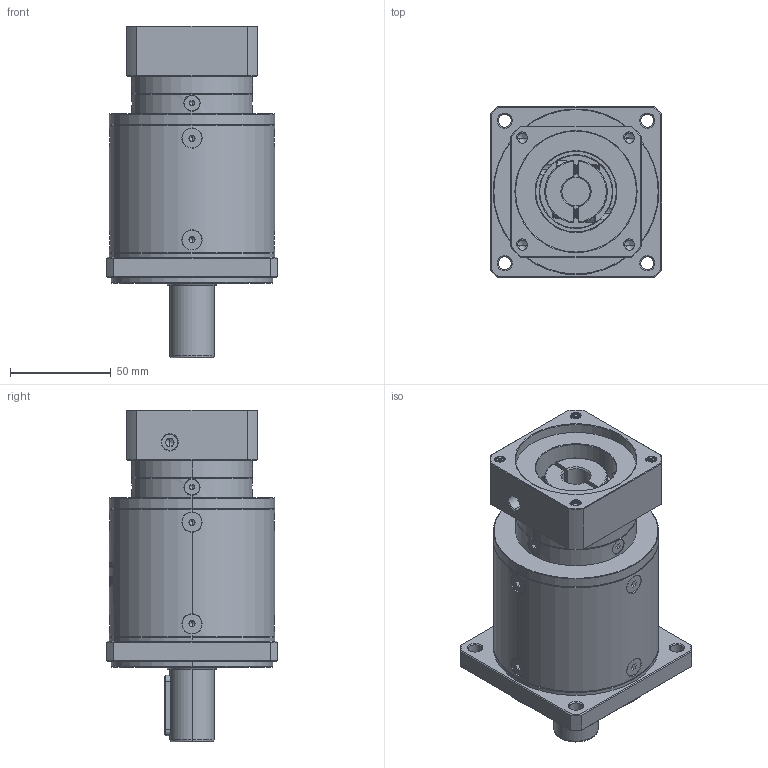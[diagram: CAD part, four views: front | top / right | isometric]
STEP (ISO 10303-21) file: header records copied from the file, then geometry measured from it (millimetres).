
FILE_DESCRIPTION (( 'STEP AP214' ), '1' );
FILE_NAME ('ZF80-D22-L3-14-60-75-M6.step', '2022-05-08T09:28:17', ( '' ), ( 'Microsoft' ), 'SwSTEP 2.0', 'SolidWorks 2016', '' );
FILE_SCHEMA (( 'AUTOMOTIVE_DESIGN' ));
Length unit declared in the file: millimetre
Products named in the file (1): ZF80-D22-L3-14-60-75-M6
Bounding box: 85 x 85 x 164.5 mm (x, y, z)
Volume: 586612.5 mm3; surface area: 76196.4 mm2
Topology: 18 solids, 18 shells, 2050 faces, 5359 edges, 3406 vertices
Faces by surface type: plane 953, cylinder 429, bspline 328, cone 326, torus 14
Entity records: 111227 total; most frequent: CARTESIAN_POINT 41811, ORIENTED_EDGE 10642, DIRECTION 8496, EDGE_CURVE 5321, VERTEX_POINT 3406, LINE 2866, VECTOR 2866, AXIS2_PLACEMENT_3D 2815
